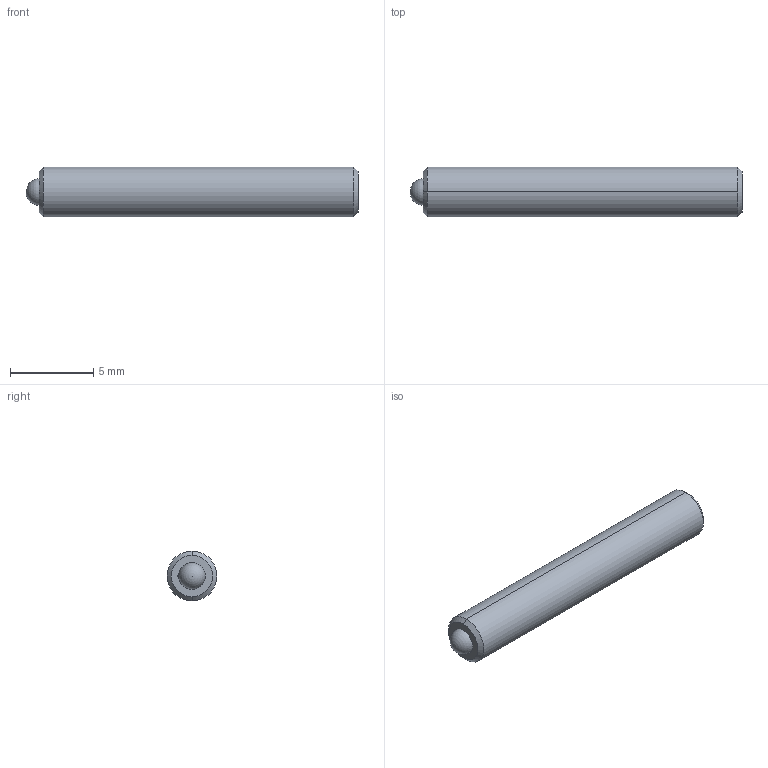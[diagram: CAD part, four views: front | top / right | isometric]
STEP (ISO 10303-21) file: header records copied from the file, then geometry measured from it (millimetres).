
FILE_DESCRIPTION (( 'STEP AP214' ), '1' );
FILE_NAME ('TS3-20-20-HV.STEP', '2013-05-10T16:15:31', ( 'workpc' ), ( 'Microsoft' ), 'SwSTEP 2.0', 'SolidWorks 2013', '' );
FILE_SCHEMA (( 'AUTOMOTIVE_DESIGN' ));
Length unit declared in the file: millimetre
Products named in the file (1): TS3-20-20-HV
Bounding box: 20 x 3 x 3 mm (x, y, z)
Volume: 131.8 mm3; surface area: 214.6 mm2
Topology: 2 solids, 2 shells, 24 faces, 57 edges, 37 vertices
Faces by surface type: plane 10, cylinder 8, cone 4, sphere 2
Entity records: 727 total; most frequent: DIRECTION 124, CARTESIAN_POINT 111, ORIENTED_EDGE 104, EDGE_CURVE 52, AXIS2_PLACEMENT_3D 47, VERTEX_POINT 34, VECTOR 30, LINE 30
